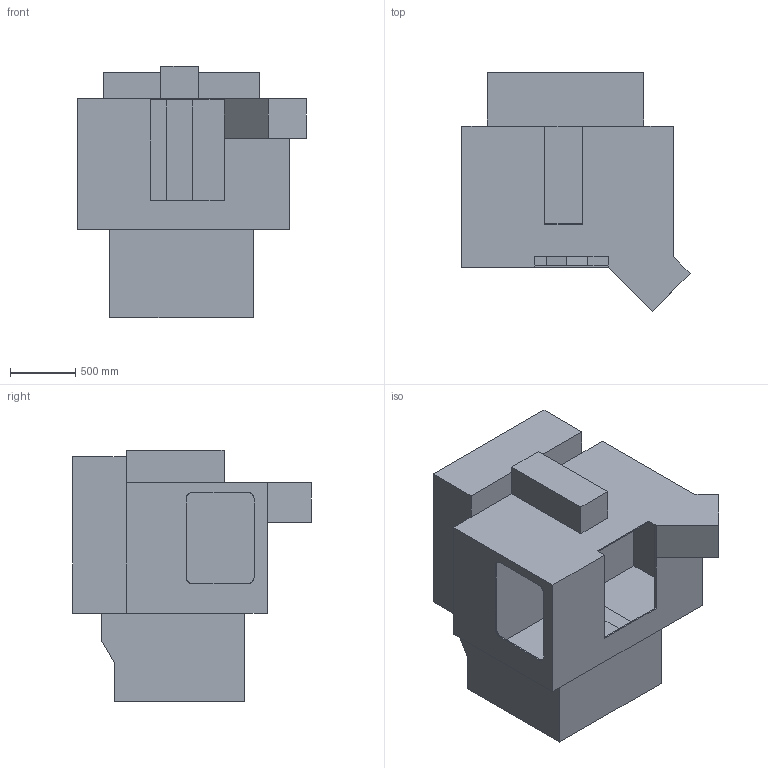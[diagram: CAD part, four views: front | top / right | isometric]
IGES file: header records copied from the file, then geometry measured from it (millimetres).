
Start section: SolidWorks IGES FILE using analytic representation for surfaces
Global section: file name: C:\Documents and Settings\admin-prod\Mes documents\Cu-3axes-realmeca-sw2003\cu-3axes-real-bati.IGS; native system: SolidWorks 2003 by SolidWorks Corporation; preprocessor: Version 5.3; author: admin-prod; date: 070509.135243; units: millimetre
Bounding box: 1749.41 x 1829.41 x 1930 mm (x, y, z)
Surface area: 20993845.8 mm2 (no closed solid volume)
Topology: 0 solids, 0 shells, 72 faces, 448 edges, 448 vertices
Faces by surface type: bspline 68, revolution 4
